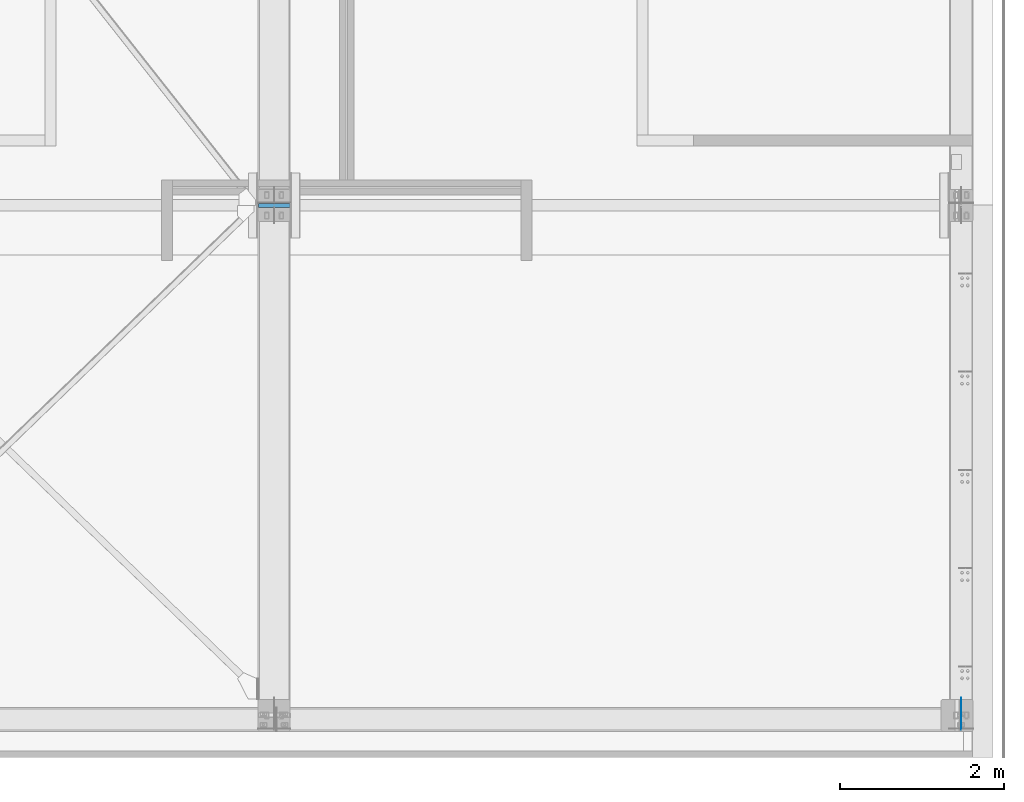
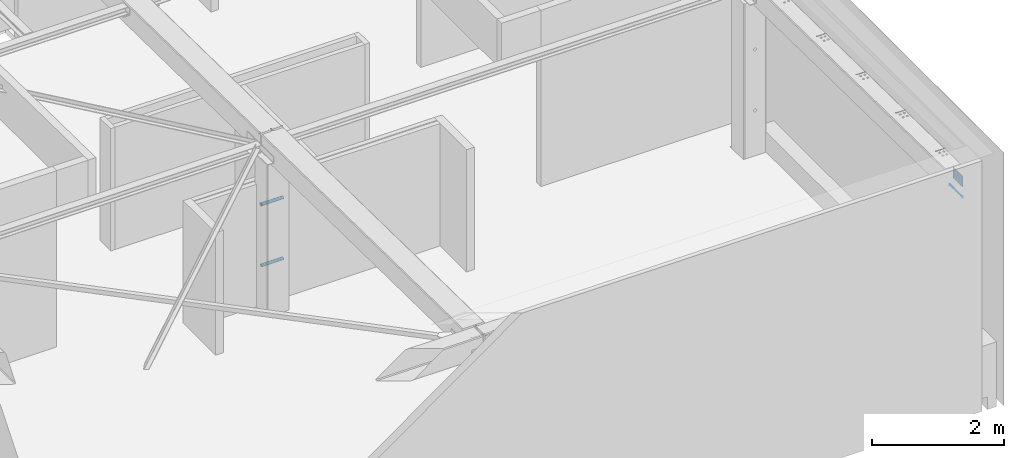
# One storey, part 24 of 186: 4 beams.
"""IFC4X3_ADD2 building model written with IfcOpenShell, lengths in millimetres."""

from ifc_helpers import new_model, si_unit, direction, frame, frame_2d, origin_with_axes, place, context, subcontext, project, spatial, polyline, rectangle, hollow_circle, outline, extrude, boolean, material, type_object, element, save


model = new_model("IFC4X3_ADD2")

# Units and contexts
model_context = context("Model", 3, precision=1e-05, world=origin_with_axes(), true_north=direction((0.0, 1.0)))
body_context = subcontext(model_context, "Body", "Model", "MODEL_VIEW")
ifc_project = project(units=[si_unit("LENGTHUNIT", "METRE", prefix="MILLI"), si_unit("AREAUNIT", "SQUARE_METRE"), si_unit("VOLUMEUNIT", "CUBIC_METRE"), si_unit("PLANEANGLEUNIT", "RADIAN"), si_unit("TIMEUNIT", "SECOND"), si_unit("MASSUNIT", "GRAM")], contexts=[model_context])

# Site, building, storey
site_placement = place(None, origin_with_axes())
site = spatial("IfcSite", under=ifc_project, at=site_placement, Name="Site", CompositionType="ELEMENT")
building_placement = place(site_placement, origin_with_axes())
building = spatial("IfcBuilding", under=site, at=building_placement, Name="IFC Building Story")
storey_placement = place(building_placement, frame((0.0, 0.0, 4370.0), z_axis=(0.0, 0.0, 1.0), x_axis=(1.0, 0.0, 0.0)))
storey = spatial("IfcBuildingStorey", under=building, at=storey_placement, Name="ETAGE 10 (1)", Elevation=4370.0)

# Beams
ifc_material_1 = material(Name="STEEL/Accessory_invisible 261")
beam_type_1 = type_object("IfcBeamType", Name="210*1", PredefinedType="NOTDEFINED")
beam_1_placement = place(storey_placement, frame((48360.6886988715, -14291.6318576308, 3266.73258115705), z_axis=(1.0, 0.0, 0.0), x_axis=(0.0, -0.01554157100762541, -0.9998792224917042)))
element("IfcBeam", 1, at=beam_1_placement, inside=storey, type_object=beam_type_1, material=ifc_material_1, Name="BEK4", ObjectType="210*1", context=body_context, shape_type="CSG", body=[
    boolean("UNION", boolean("UNION", extrude(rectangle(XDim=210.000000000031, YDim=300.036162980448, at=frame_2d((0.0, 5.95523630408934e-12), x_axis=(1.0, 0.0))), origin_with_axes(), (0.0, 0.0, 1.0), 1.0), extrude(outline(polyline([(105.0000000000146, -1.866218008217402e-05), (-105.0000000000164, -1.866218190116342e-05), (-105.0000000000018, 1.866218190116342e-05), (105.0, 1.866218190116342e-05), (105.0000000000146, -1.866218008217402e-05)])), frame((0.0, 150.0181001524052, 0.0), z_axis=(0.0, 0.0, 1.0), x_axis=(1.0, 0.0, 0.0)), (0.0, 0.0, 1.0), 1.0)), extrude(outline(polyline([(-105.0000000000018, 1.866218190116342e-05), (105.0, 1.866218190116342e-05), (105.0000000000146, -1.866218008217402e-05), (-105.0000000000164, -1.866218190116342e-05), (-105.0000000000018, 1.866218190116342e-05)])), frame((0.0, -150.018100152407, 0.0), z_axis=(0.0, 0.0, 1.0), x_axis=(1.0, 0.0, 0.0)), (0.0, 0.0, 1.0), 1.0)),
])
beam_type_2 = type_object("IfcBeamType", Name="12*1", PredefinedType="NOTDEFINED")
beam_2_placement = place(storey_placement, frame((48360.6886988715, -14245.0171569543, 2976.97311904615), z_axis=(1.0, 0.0, 0.0), x_axis=(0.0, -0.01554157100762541, -0.9998792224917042)))
element("IfcBeam", 2, at=beam_2_placement, inside=storey, type_object=beam_type_2, material=ifc_material_1, Name="BEK4", ObjectType="12*1", context=body_context, shape_type="CSG", body=[
    boolean("UNION", boolean("UNION", extrude(rectangle(XDim=12.0000000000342, YDim=390.260883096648, at=frame_2d((0.0, 5.95523630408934e-12), x_axis=(1.0, 0.0))), origin_with_axes(), (0.0, 0.0, 1.0), 1.0), extrude(outline(polyline([(6.000000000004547, -0.001769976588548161), (-6.000000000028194, -0.001769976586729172), (-5.999999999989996, 0.00176997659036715), (6.000000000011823, 0.00176997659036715), (6.000000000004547, -0.001769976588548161)])), frame((1.182343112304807e-11, 195.1322115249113, 0.0), z_axis=(0.0, 0.0, 1.0), x_axis=(1.0, 0.0, 0.0)), (0.0, 0.0, 1.0), 1.0)), extrude(outline(polyline([(-5.999999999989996, 0.00176997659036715), (6.000000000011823, 0.00176997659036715), (6.000000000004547, -0.001769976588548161), (-6.000000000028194, -0.001769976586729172), (-5.999999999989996, 0.00176997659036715)])), frame((-1.091393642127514e-11, -195.132211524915, 0.0), z_axis=(0.0, 0.0, 1.0), x_axis=(1.0, 0.0, 0.0)), (0.0, 0.0, 1.0), 1.0)),
])
ifc_material_2 = material(Name="STEEL/Accessory_PVC")
for number, where, z_axis, x_axis, name in (
    (3, (39774.1889999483, -8035.0, 840.0), (1.0, 0.0, 0.0), (0.0, 0.0, -1.0), "PS13"),
    (4, (39774.1890000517, -8035.0, 1970.0), (1.0, 0.0, 0.0), (0.0, 0.0, -1.0), "PS13"),
):
    element("IfcBeam", number, at=place(storey_placement, frame(where, z_axis=z_axis, x_axis=x_axis)), inside=storey, material=ifc_material_2, Name=name, ObjectType="O56*3", context=body_context, shape_type="SweptSolid", body=[
        extrude(hollow_circle(Radius=28.0, WallThickness=3.0, at=frame_2d((0.0, 5.95523630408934e-12), x_axis=(1.0, 0.0))), origin_with_axes(), (0.0, 0.0, 1.0), 384.0),
    ])

save(model, "model.ifc")
